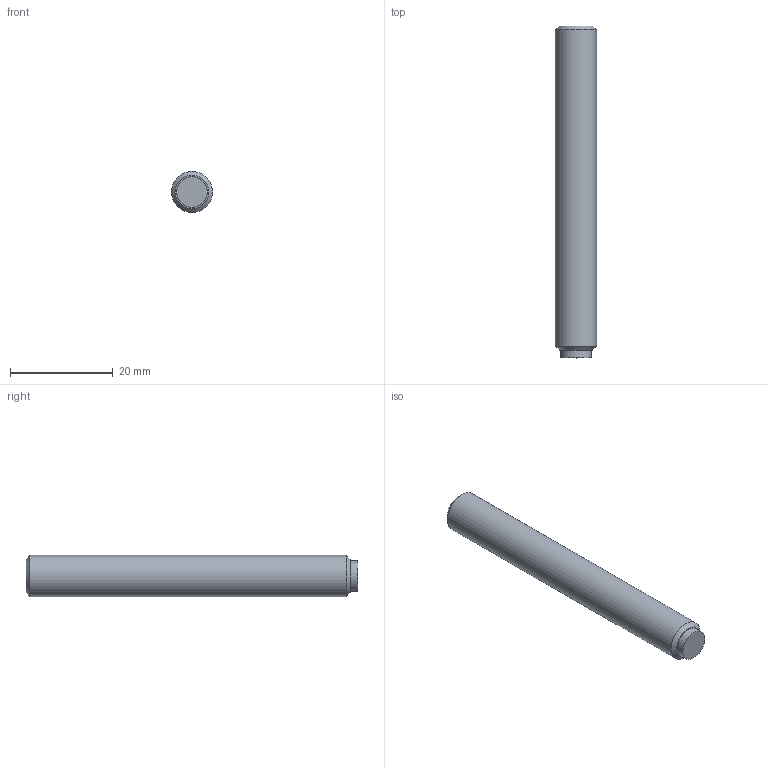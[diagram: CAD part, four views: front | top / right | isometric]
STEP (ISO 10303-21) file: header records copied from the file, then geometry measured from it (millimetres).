
FILE_DESCRIPTION( ( 'STEP AP203' ), '1' );
FILE_NAME( 'C:/Temp/Ganter_Step_05_03_2020/data/3_2/gn913_3/Grub screw GN 913.3-M8-63-MS.stp', '2020-03-13T05:35:51', ( 'License CC BY-ND 4.0' ), ( 'CADENAS' ), ' ', 'PARTsolutions', ' ' );
FILE_SCHEMA( ( 'CONFIG_CONTROL_DESIGN' ) );
Length unit declared in the file: millimetre
Products named in the file (1): _Grub screw GN 913.3-M8-63-MS
Bounding box: 8 x 64.5 x 8 mm (x, y, z)
Volume: 3126 mm3; surface area: 1757.3 mm2
Topology: 1 solids, 1 shells, 14 faces, 28 edges, 18 vertices
Faces by surface type: plane 10, cylinder 2, cone 2
Full cylindrical faces by diameter (mm): 6 x1, 8 x1
Entity records: 386 total; most frequent: DIRECTION 60, CARTESIAN_POINT 57, ORIENTED_EDGE 48, EDGE_CURVE 24, AXIS2_PLACEMENT_3D 21, EDGE_LOOP 20, VERTEX_POINT 18, LINE 18
